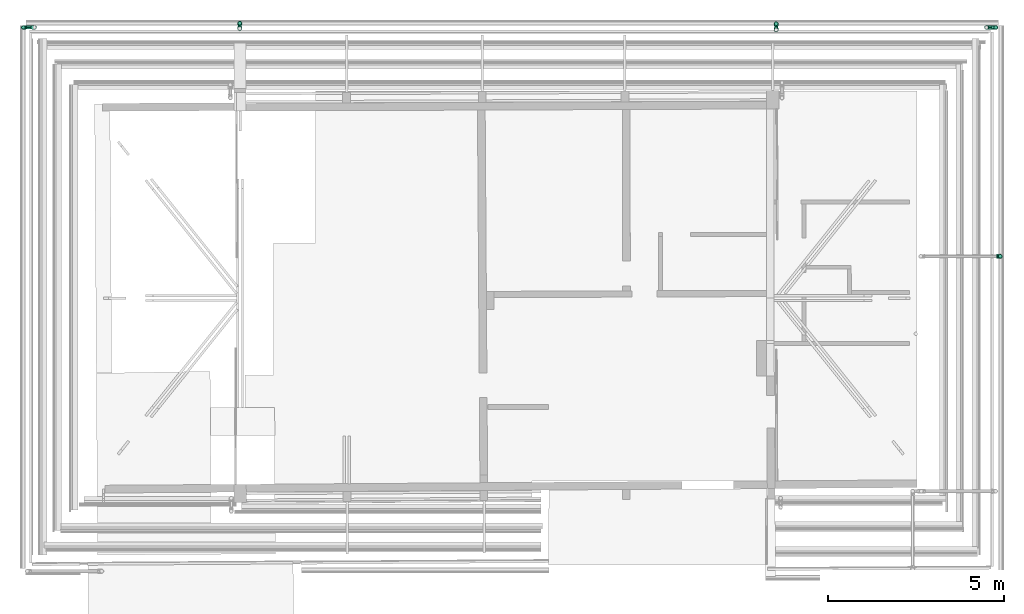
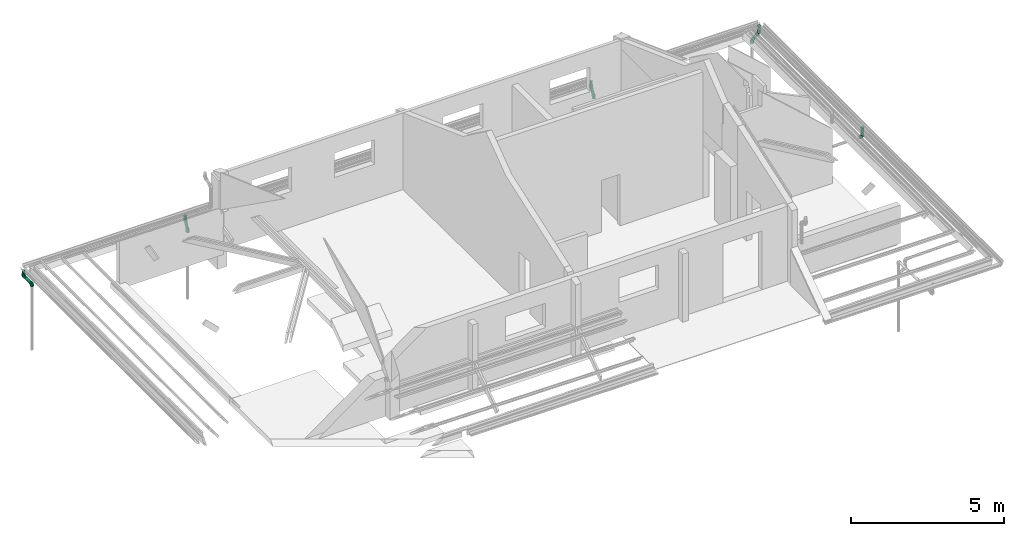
# One storey, part 13 of 15: 9 flow fittings, 9 flow segments.
"""IFC2X3 building model written with IfcOpenShell, lengths in centimetres."""

from ifc_helpers import new_model, entity, si_unit, converted_unit, direction, frame, frame_2d, origin, origin_2d_with_axis, place, context, subcontext, project, spatial, circle, extrude, faceted_brep, source, transform, mapped, material, type_object, type_shapes, element, save


model = new_model("IFC2X3")

# Units and contexts
model_context = context("Model", 3, precision=0.001, world=frame((0.0, 0.0, 13090.0)), true_north=direction((6.123233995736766e-17, 1.0)))
body_context = subcontext(model_context, "Body", "Model", "MODEL_VIEW")
ifc_project = project(units=[si_unit("LENGTHUNIT", "METRE", prefix="CENTI"), si_unit("AREAUNIT", "SQUARE_METRE"), si_unit("VOLUMEUNIT", "CUBIC_METRE"), converted_unit("PLANEANGLEUNIT", "DEGREE", entity("IfcPlaneAngleMeasure", 0.017453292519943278), si_unit("PLANEANGLEUNIT", "RADIAN"), dimensions=[0, 0, 0, 0, 0, 0, 0])], contexts=[model_context])

# Site, building, storey
site_placement = place(None, origin())
site = spatial("IfcSite", under=ifc_project, at=site_placement, Name="Default", CompositionType="ELEMENT")
building_placement = place(site_placement, origin())
building = spatial("IfcBuilding", under=site, at=building_placement, Name="e 39 logements et 22 maisons relais", CompositionType="ELEMENT")
storey_placement = place(building_placement, frame((0.0, 0.0, 340.0)))
storey = spatial("IfcBuildingStorey", under=building, at=storey_placement, Name="R+1", CompositionType="ELEMENT", Elevation=339.99999999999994)

# Flow segments
pipe_segment_type = type_object("IfcPipeSegmentType", Name="Canalisation:Par défaut", PredefinedType="NOTDEFINED")
flow_segment_1_placement = place(storey_placement, origin())
element("IfcFlowSegment", 1, at=flow_segment_1_placement, inside=storey, type_object=pipe_segment_type, Name="Canalisation:Par défaut", ObjectType="Canalisation:Par défaut", context=body_context, shape_type="SweptSolid", body=[
    extrude(circle(Radius=5.0, at=origin_2d_with_axis()), frame((1220.3704185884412, 746.9620554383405, -48.138124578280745), z_axis=(0.7771459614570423, 0.0, 0.6293203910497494), x_axis=(0.0, -1.0, 0.0)), (0.0, 0.0, 1.0), 11.775000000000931),
])
flow_segment_2_placement = place(storey_placement, origin())
element("IfcFlowSegment", 2, at=flow_segment_2_placement, inside=storey, type_object=pipe_segment_type, Name="Canalisation:Par défaut", ObjectType="Canalisation:Par défaut", context=body_context, shape_type="SweptSolid", body=[
    extrude(circle(Radius=5.0, at=frame_2d((0.0, 1.0828671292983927e-13), x_axis=(1.0, 0.0))), frame((1238.1573467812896, 746.9620554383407, -22.62205412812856), z_axis=(0.0, 0.0, 1.0), x_axis=(-1.0, 0.0, 0.0)), (0.0, 0.0, 1.0), 17.0875000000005),
])
flow_segment_3_placement = place(storey_placement, origin())
element("IfcFlowSegment", 3, at=flow_segment_3_placement, inside=storey, type_object=pipe_segment_type, Name="Canalisation:Par défaut", ObjectType="Canalisation:Par défaut", context=body_context, shape_type="SweptSolid", body=[
    extrude(circle(Radius=5.0, at=origin_2d_with_axis()), frame((1251.1307459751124, 95.57811266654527, -44.81986798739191), z_axis=(0.0, 0.0, 1.0), x_axis=(-1.0, 0.0, 0.0)), (0.0, 0.0, 1.0), 26.499999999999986),
])
flow_segment_4_placement = place(storey_placement, origin())
element("IfcFlowSegment", 4, at=flow_segment_4_placement, inside=storey, type_object=pipe_segment_type, Name="Canalisation:Par défaut", ObjectType="Canalisation:Par défaut", context=body_context, shape_type="SweptSolid", body=[
    extrude(circle(Radius=5.0, at=origin_2d_with_axis()), frame((-913.2344357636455, 747.4182349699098, -56.66478418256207), z_axis=(0.0, 0.43837114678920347, 0.8987940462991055), x_axis=(1.0, 0.0, 0.0)), (0.0, 0.0, 1.0), 18.767520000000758),
])
flow_segment_5_placement = place(storey_placement, origin())
element("IfcFlowSegment", 5, at=flow_segment_5_placement, inside=storey, type_object=pipe_segment_type, Name="Canalisation:Par défaut", ObjectType="Canalisation:Par défaut", context=body_context, shape_type="SweptSolid", body=[
    extrude(circle(Radius=5.0, at=frame_2d((0.0, 1.0828671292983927e-13), x_axis=(1.0, 0.0))), frame((-913.2344357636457, 759.1594625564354, -24.575460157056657), z_axis=(0.0, 0.0, 1.0), x_axis=(-1.0, 0.0, 0.0)), (0.0, 0.0, 1.0), 10.283759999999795),
])
flow_segment_6_placement = place(storey_placement, origin())
element("IfcFlowSegment", 6, at=flow_segment_6_placement, inside=storey, type_object=pipe_segment_type, Name="Canalisation:Par défaut", ObjectType="Canalisation:Par défaut", context=body_context, shape_type="SweptSolid", body=[
    extrude(circle(Radius=5.0, at=origin_2d_with_axis()), frame((613.0959436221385, 744.5290247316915, -57.16839418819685), z_axis=(0.0, 0.5591929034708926, 0.8290375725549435), x_axis=(1.0, 0.0, 0.0)), (0.0, 0.0, 1.0), 15.667520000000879),
])
flow_segment_7_placement = place(storey_placement, origin())
element("IfcFlowSegment", 7, at=flow_segment_7_placement, inside=storey, type_object=pipe_segment_type, Name="Canalisation:Par défaut", ObjectType="Canalisation:Par défaut", context=body_context, shape_type="SweptSolid", body=[
    extrude(circle(Radius=5.0, at=origin_2d_with_axis()), frame((613.0959436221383, 757.772815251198, -29.5174272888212), z_axis=(0.0, 0.0, 1.0), x_axis=(-1.0, 0.0, 0.0)), (0.0, 0.0, 1.0), 15.683759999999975),
])
flow_segment_8_placement = place(storey_placement, origin())
element("IfcFlowSegment", 8, at=flow_segment_8_placement, inside=storey, type_object=pipe_segment_type, Name="Canalisation:Par défaut", ObjectType="Canalisation:Par défaut", context=body_context, shape_type="SweptSolid", body=[
    extrude(circle(Radius=5.0, at=origin_2d_with_axis()), frame((-1502.0786888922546, 746.9968022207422, -69.48445857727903), z_axis=(-0.587785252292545, 0.0, 0.8090169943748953), x_axis=(0.0, 1.0, 0.0)), (0.0, 0.0, 1.0), 37.682068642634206),
])
flow_segment_9_placement = place(storey_placement, origin())
element("IfcFlowSegment", 9, at=flow_segment_9_placement, inside=storey, type_object=pipe_segment_type, Name="Canalisation:Par défaut", ObjectType="Canalisation:Par défaut", context=body_context, shape_type="SweptSolid", body=[
    extrude(circle(Radius=5.0, at=origin_2d_with_axis()), frame((-1528.9394807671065, 746.9968022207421, -24.49751027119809), z_axis=(0.0, 0.0, 1.0), x_axis=(-1.0, 0.0, 0.0)), (0.0, 0.0, 1.0), 12.283760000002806),
])

# Flow fittings
ifc_material = material(Name="<Unnamed>")
pipe_fitting_type_1 = type_object("IfcPipeFittingType", Name="Coude - PVC - Nom. 40:Standard", PredefinedType="NOTDEFINED", material=ifc_material)
shared_shape_1 = source(origin(), body_context, "Body", "Brep", [
    faceted_brep([(-11.112499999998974, -1.6435009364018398, -6.133628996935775), (-11.11249999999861, -5.499261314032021, -3.1750000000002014), (-11.112499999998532, -6.350000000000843, 0.0), (-11.11249999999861, -5.499261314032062, 3.1749999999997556), (-11.112499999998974, -1.6435009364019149, 6.13362899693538), (-11.112499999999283, 1.6435009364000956, 6.133628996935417), (-11.112499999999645, 5.4992613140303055, 3.17499999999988), (-11.112499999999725, 6.3499999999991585, 0.0), (-11.112499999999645, 5.499261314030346, -3.175000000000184), (-11.112499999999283, 1.643500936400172, -6.13362899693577), (-5.872479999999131, -6.3500000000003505, 0.0), (-5.87247999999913, -5.499261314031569, 3.1749999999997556), (-5.87247999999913, -1.6435009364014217, 6.13362899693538), (-5.872479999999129, 1.6435009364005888, 6.133628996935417), (8.270562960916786, 7.601745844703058, 6.13362899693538), (5.7160827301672, 9.670323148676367, 6.133628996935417), (2.418431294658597, 5.598062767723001, 6.133628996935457), (4.972911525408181, 3.529485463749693, 6.1336289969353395), (-5.872479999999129, 5.499261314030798, 3.17499999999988), (-5.872479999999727, 6.3499999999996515, 0.0), (-5.872479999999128, 5.499261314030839, -3.1750000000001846), (-5.87247999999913, 1.6435009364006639, -6.13362899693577), (-5.87247999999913, -1.643500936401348, -6.133628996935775), (5.716082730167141, 9.670323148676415, -6.13362899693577), (8.270562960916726, 7.601745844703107, -6.133628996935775), (4.972911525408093, 3.5294854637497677, -6.1336289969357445), (2.4184312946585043, 5.5980627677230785, -6.133628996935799), (-5.87247999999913, -5.499261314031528, -3.1750000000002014), (-0.1409989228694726, 0.2956099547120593, 6.270559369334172), (-0.21033826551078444, -3.8691241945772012, 4.120940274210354), (2.1616794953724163, -4.532055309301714, 0.0), (-3.3058114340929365, 6.930777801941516, 0.0), (-0.5780573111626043, 8.024571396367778, 3.174999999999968), (8.63054826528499, 0.5675896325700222, 0.0), (7.9694001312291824, 1.1029768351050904, 3.174999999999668), (-1.2392054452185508, 8.559958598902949, 0.0), (3.139244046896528, -2.271455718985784, -4.120939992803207), (-0.14099882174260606, 0.29560931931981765, -6.270559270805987), (7.969400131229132, 1.1029768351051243, -3.1750000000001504), (-0.5780573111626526, 8.024571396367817, -3.175000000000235), (2.719594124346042, 12.096831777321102, -3.1750000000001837), (2.058445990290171, 12.63221897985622, 0.0), (2.719594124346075, 12.096831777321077, 3.17499999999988), (11.267051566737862, 5.175237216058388, 3.1749999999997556), (11.928199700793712, 4.63985001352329, 0.0), (11.267051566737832, 5.175237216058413, -3.1750000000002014)], [[[0, 1, 2, 3, 4, 5, 6, 7, 8, 9]], [[2, 10, 11, 3]], [[3, 11, 12, 4]], [[12, 13, 5, 4]], [[14, 15, 16, 17]], [[5, 13, 18, 6]], [[6, 18, 19, 7]], [[7, 19, 20, 8]], [[8, 20, 21, 9]], [[21, 22, 0, 9]], [[23, 24, 25, 26]], [[0, 22, 27, 1]], [[1, 27, 10, 2]], [[17, 16, 28]], [[29, 11, 30]], [[13, 12, 28]], [[12, 11, 29]], [[12, 29, 28]], [[31, 18, 32]], [[31, 19, 18]], [[18, 13, 28]], [[11, 10, 30]], [[30, 33, 34]], [[34, 29, 30]], [[17, 28, 29]], [[31, 32, 35]], [[28, 32, 18]], [[28, 16, 32]], [[34, 17, 29]], [[25, 36, 37]], [[25, 38, 36]], [[20, 39, 37]], [[21, 20, 37]], [[10, 27, 30]], [[36, 22, 37]], [[36, 27, 22]], [[20, 19, 31]], [[31, 35, 39]], [[27, 36, 30]], [[26, 37, 39]], [[30, 36, 38]], [[26, 25, 37]], [[30, 38, 33]], [[37, 22, 21]], [[39, 20, 31]], [[24, 23, 40, 41, 42, 15, 14, 43, 44, 45]], [[33, 44, 43, 34]], [[34, 43, 14, 17]], [[16, 15, 42, 32]], [[32, 42, 41, 35]], [[35, 41, 40, 39]], [[39, 40, 23, 26]], [[25, 24, 45, 38]], [[38, 45, 44, 33]]]),
])
type_shapes(pipe_fitting_type_1, [shared_shape_1])
for number, where, z_axis, x_axis, name in (
    (10, (1211.7343840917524, 746.9620554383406, -55.131447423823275), (0.0, 1.0, 0.0), (0.0, 0.0, 1.0), "Coude - PVC - Nom. 40:Standard"),
    (11, (1238.1573467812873, 746.9620554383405, -33.73455412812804), (0.0, -1.0, 0.0), (0.7771459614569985, 0.0, 0.6293203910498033), "Coude - PVC - Nom. 40:Standard"),
):
    element("IfcFlowFitting", number, at=place(storey_placement, frame(where, z_axis=z_axis, x_axis=x_axis)), inside=storey, type_object=pipe_fitting_type_1, material=ifc_material, Name=name, ObjectType="Coude - PVC - Nom. 40:Standard", context=body_context, shape_type="MappedRepresentation", body=[
        mapped(shared_shape_1, transform((0.0, 0.0, 0.0), scale=1.0)),
    ])
pipe_fitting_type_2 = type_object("IfcPipeFittingType", Name="Coude - PVC - Nom. 40:Standard", PredefinedType="NOTDEFINED", material=ifc_material)
shared_shape_2 = source(origin(), body_context, "Body", "Brep", [
    faceted_brep([(-11.542093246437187, -1.6435009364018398, -6.133628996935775), (-11.542093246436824, -5.499261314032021, -3.1750000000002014), (-11.542093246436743, -6.350000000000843, 0.0), (-11.542093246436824, -5.499261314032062, 3.1749999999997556), (-11.542093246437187, -1.6435009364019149, 6.13362899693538), (-11.542093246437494, 1.6435009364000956, 6.133628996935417), (-11.542093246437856, 5.4992613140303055, 3.17499999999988), (-11.542093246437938, 6.3499999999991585, 0.0), (-11.542093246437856, 5.499261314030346, -3.175000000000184), (-11.542093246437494, 1.643500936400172, -6.13362899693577), (-6.302073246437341, -6.350000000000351, 0.0), (-6.302073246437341, -5.49926131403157, 3.1749999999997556), (-6.302073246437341, -1.6435009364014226, 6.13362899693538), (-6.30207324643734, 1.643500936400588, 6.133628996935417), (1.8739680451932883, 11.506922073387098, 6.13362899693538), (-1.4123766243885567, 11.572648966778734, 6.133628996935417), (-1.517156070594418, 6.333676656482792, 6.133628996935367), (1.7691885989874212, 6.267949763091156, 6.13362899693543), (-6.302073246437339, 5.4992613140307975, 3.17499999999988), (-6.302073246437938, 6.349999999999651, 0.0), (-6.302073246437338, 5.499261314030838, -3.175000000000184), (-6.30207324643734, 1.6435009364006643, -6.13362899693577), (-6.302073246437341, -1.6435009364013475, -6.133628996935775), (-1.412376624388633, 11.572648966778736, -6.13362899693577), (1.8739680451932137, 11.5069220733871, -6.133628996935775), (1.7691885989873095, 6.267949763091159, -6.133628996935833), (-1.517156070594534, 6.333676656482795, -6.133628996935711), (-6.302073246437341, -5.4992613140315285, -3.1750000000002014), (-0.1608566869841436, 0.16410532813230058, 5.901628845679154), (-2.1057190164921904, -4.11757864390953, 4.012363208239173), (-0.8295113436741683, -3.602819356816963, 0.0), (4.10352219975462, 1.7165620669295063, 3.9224092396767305), (5.624178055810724, 6.190849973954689, 3.1749999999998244), (3.945789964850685, -1.2056577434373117, 0.0), (-6.246510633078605, 6.372690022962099, 0.0), (-5.3721455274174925, 6.410776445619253, 3.1749999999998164), (-3.6626994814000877, 3.736685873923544, 5.766543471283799), (6.474746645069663, 6.173838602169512, 0.0), (-6.2227141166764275, 6.427787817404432, 0.0), (-2.1057189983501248, -4.117578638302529, -4.01236320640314), (4.103522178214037, 1.7165620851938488, -3.9224092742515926), (-0.16085660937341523, 0.16410534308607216, -5.9016288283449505), (-5.372145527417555, 6.410776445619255, -3.175000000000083), (-3.662699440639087, 3.7366858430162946, -5.766543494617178), (5.624178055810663, 6.190849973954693, -3.175000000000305), (-5.267366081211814, 11.6497487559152, -3.175000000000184), (-6.117934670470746, 11.666760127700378, 0.0), (-5.267366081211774, 11.649748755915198, 3.17499999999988), (5.728957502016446, 11.429822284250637, 3.1749999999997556), (6.579526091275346, 11.412810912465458, 0.0), (5.728957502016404, 11.429822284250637, -3.1750000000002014)], [[[0, 1, 2, 3, 4, 5, 6, 7, 8, 9]], [[2, 10, 11, 3]], [[3, 11, 12, 4]], [[12, 13, 5, 4]], [[14, 15, 16, 17]], [[5, 13, 18, 6]], [[6, 18, 19, 7]], [[7, 19, 20, 8]], [[8, 20, 21, 9]], [[21, 22, 0, 9]], [[23, 24, 25, 26]], [[0, 22, 27, 1]], [[1, 27, 10, 2]], [[12, 28, 13]], [[29, 11, 30]], [[29, 31, 28]], [[28, 12, 29]], [[32, 31, 33]], [[34, 18, 35]], [[18, 36, 35]], [[34, 19, 18]], [[18, 13, 36]], [[11, 10, 30]], [[29, 33, 31]], [[33, 37, 32]], [[33, 29, 30]], [[32, 17, 31]], [[28, 36, 13]], [[34, 35, 38]], [[29, 12, 11]], [[36, 16, 35]], [[36, 28, 16]], [[17, 28, 31]], [[16, 28, 17]], [[20, 19, 34]], [[39, 40, 33]], [[39, 41, 40]], [[20, 42, 43]], [[39, 30, 27]], [[41, 21, 43]], [[44, 40, 25]], [[41, 43, 26]], [[27, 30, 10]], [[20, 34, 42]], [[42, 26, 43]], [[41, 25, 40]], [[39, 27, 22]], [[25, 41, 26]], [[40, 44, 33]], [[22, 21, 41]], [[44, 37, 33]], [[22, 41, 39]], [[39, 33, 30]], [[20, 43, 21]], [[42, 34, 38]], [[23, 45, 46, 47, 15, 14, 48, 49, 50, 24]], [[37, 49, 48, 32]], [[32, 48, 14, 17]], [[16, 15, 47, 35]], [[35, 47, 46, 38]], [[38, 46, 45, 42]], [[42, 45, 23, 26]], [[25, 24, 50, 44]], [[44, 50, 49, 37]]]),
])
type_shapes(pipe_fitting_type_2, [shared_shape_2])
flow_fitting_placement = place(storey_placement, frame((1251.1307459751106, 95.57811266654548, -56.361961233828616), z_axis=(0.0, 1.0, 0.0), x_axis=(0.0, 0.0, -1.0)))
element("IfcFlowFitting", 12, at=flow_fitting_placement, inside=storey, type_object=pipe_fitting_type_2, material=ifc_material, Name="Coude - PVC - Nom. 40:Standard", ObjectType="Coude - PVC - Nom. 40:Standard", context=body_context, shape_type="MappedRepresentation", body=[
    mapped(shared_shape_2, transform((0.0, 0.0, 0.0), scale=1.0)),
])
pipe_fitting_type_3 = type_object("IfcPipeFittingType", Name="Coude - PVC - Nom. 40:Standard", PredefinedType="NOTDEFINED", material=ifc_material)
shared_shape_3 = source(origin(), body_context, "Body", "Brep", [
    faceted_brep([(-8.016239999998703, -1.6435009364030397, -6.133628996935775), (-8.016239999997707, -5.499261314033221, -3.1750000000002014), (-8.016239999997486, -6.350000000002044, 0.0), (-8.016239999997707, -5.499261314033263, 3.1749999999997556), (-8.016239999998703, -1.6435009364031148, 6.13362899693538), (-8.016239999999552, 1.643500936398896, 6.133628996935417), (-8.016240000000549, 5.499261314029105, 3.17499999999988), (-8.016240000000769, 6.349999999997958, 0.0), (-8.016240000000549, 5.4992613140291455, -3.175000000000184), (-8.016239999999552, 1.643500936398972, -6.13362899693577), (-2.7762199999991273, -6.35000000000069, 0.0), (-2.7762199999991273, -5.499261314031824, 3.1749999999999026), (-2.7762199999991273, -1.6435009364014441, 6.133628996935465), (-2.7762199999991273, 1.6435009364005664, 6.1336289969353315), (7.925412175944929, 2.0369194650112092, 6.13362899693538), (6.48448539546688, 4.991257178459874, 6.133628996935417), (1.7747866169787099, 2.6941836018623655, 6.13362899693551), (3.215713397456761, -0.2601541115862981, 6.133628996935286), (-2.7762199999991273, 5.4992613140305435, 3.1749999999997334), (-2.7762200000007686, 6.349999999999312, 0.0), (-2.7762199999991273, 5.499261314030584, -3.175000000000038), (-2.7762199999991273, 1.6435009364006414, -6.133628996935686), (-2.7762199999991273, -1.6435009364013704, -6.133628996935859), (6.484485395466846, 4.991257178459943, -6.13362899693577), (7.925412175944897, 2.0369194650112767, -6.133628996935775), (3.2157133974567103, -0.2601541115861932, -6.13362899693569), (1.774786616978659, 2.6941836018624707, -6.133628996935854), (-2.7762199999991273, -5.499261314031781, -3.175000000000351), (0.15941218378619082, -0.6904915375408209, 6.266733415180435), (1.357284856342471, -5.879046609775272, 0.0), (0.08605128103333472, -4.59428219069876, 4.111810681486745), (0.08453251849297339, 6.159718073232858, 3.17500000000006), (-0.7845416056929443, 3.3982225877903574, 5.501396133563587), (-1.499593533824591, 6.495453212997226, 0.0), (4.905967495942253, -3.7256885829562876, 3.1749999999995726), (5.278906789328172, -4.49032744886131, 0.0), (-0.28840677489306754, 6.924356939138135, 0.0), (0.15941218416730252, -0.6904915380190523, -6.266733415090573), (-0.7845416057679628, 3.398222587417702, -5.501396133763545), (4.905967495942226, -3.7256885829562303, -3.1750000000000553), (1.9366582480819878, -4.167035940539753, -4.111810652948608), (0.08453251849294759, 6.159718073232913, -3.1750000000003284), (4.794231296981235, 8.456791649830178, -3.1750000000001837), (4.421292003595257, 9.221430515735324, 0.0), (4.794231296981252, 8.456791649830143, 3.17499999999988), (9.61566627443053, -1.428615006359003, 3.1749999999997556), (9.988605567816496, -2.193253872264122, 0.0), (9.615666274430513, -1.4286150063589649, -3.1750000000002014)], [[[0, 1, 2, 3, 4, 5, 6, 7, 8, 9]], [[2, 10, 11, 3]], [[3, 11, 12, 4]], [[12, 13, 5, 4]], [[14, 15, 16, 17]], [[5, 13, 18, 6]], [[6, 18, 19, 7]], [[7, 19, 20, 8]], [[8, 20, 21, 9]], [[21, 22, 0, 9]], [[23, 24, 25, 26]], [[0, 22, 27, 1]], [[1, 27, 10, 2]], [[12, 28, 13]], [[29, 30, 11]], [[16, 31, 32]], [[12, 11, 30]], [[33, 18, 31]], [[33, 19, 18]], [[18, 13, 32]], [[34, 30, 29]], [[11, 10, 29]], [[29, 35, 34]], [[17, 28, 30]], [[12, 30, 28]], [[33, 31, 36]], [[17, 16, 28]], [[28, 16, 32]], [[32, 13, 28]], [[18, 32, 31]], [[34, 17, 30]], [[37, 21, 38]], [[25, 39, 40]], [[25, 40, 37]], [[41, 38, 20]], [[10, 27, 29]], [[40, 22, 37]], [[40, 27, 22]], [[41, 26, 38]], [[20, 19, 33]], [[33, 36, 41]], [[27, 40, 29]], [[26, 37, 38]], [[22, 21, 37]], [[26, 25, 37]], [[29, 39, 35]], [[20, 38, 21]], [[40, 39, 29]], [[41, 20, 33]], [[23, 42, 43, 44, 15, 14, 45, 46, 47, 24]], [[35, 46, 45, 34]], [[34, 45, 14, 17]], [[16, 15, 44, 31]], [[31, 44, 43, 36]], [[36, 43, 42, 41]], [[41, 42, 23, 26]], [[25, 24, 47, 39]], [[39, 47, 46, 35]]]),
])
type_shapes(pipe_fitting_type_3, [shared_shape_3])
for number, where, z_axis, x_axis, name in (
    (13, (-913.2344357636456, 743.904146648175, -63.86973296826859), (-1.0, 0.0, 0.0), (0.0, 0.0, 1.0), "Coude - PVC - Nom. 40:Standard"),
    (14, (-913.2344357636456, 759.1594625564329, -32.59170015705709), (1.0, 0.0, 0.0), (0.0, 0.4383711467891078, 0.8987940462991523), "Coude - PVC - Nom. 40:Standard"),
):
    element("IfcFlowFitting", number, at=place(storey_placement, frame(where, z_axis=z_axis, x_axis=x_axis)), inside=storey, type_object=pipe_fitting_type_3, material=ifc_material, Name=name, ObjectType="Coude - PVC - Nom. 40:Standard", context=body_context, shape_type="MappedRepresentation", body=[
        mapped(shared_shape_3, transform((0.0, 0.0, 0.0), scale=1.0)),
    ])
pipe_fitting_type_4 = type_object("IfcPipeFittingType", Name="Coude - PVC - Nom. 40:Standard", PredefinedType="NOTDEFINED", material=ifc_material)
shared_shape_4 = source(origin(), body_context, "Body", "Brep", [
    faceted_brep([(-8.016239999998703, -1.6435009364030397, -6.133628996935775), (-8.016239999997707, -5.499261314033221, -3.1750000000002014), (-8.016239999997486, -6.350000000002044, 0.0), (-8.016239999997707, -5.499261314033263, 3.1749999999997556), (-8.016239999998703, -1.6435009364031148, 6.13362899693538), (-8.016239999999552, 1.643500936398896, 6.133628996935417), (-8.016240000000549, 5.499261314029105, 3.17499999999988), (-8.016240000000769, 6.349999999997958, 0.0), (-8.016240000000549, 5.4992613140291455, -3.175000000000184), (-8.016239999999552, 1.643500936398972, -6.13362899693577), (-2.7762199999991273, -6.35000000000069, 0.0), (-2.7762199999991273, -5.4992613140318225, 3.174999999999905), (-2.7762199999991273, -1.6435009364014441, 6.133628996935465), (-2.7762199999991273, 1.6435009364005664, 6.1336289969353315), (7.564798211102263, 3.1201004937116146, 6.13362899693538), (5.726730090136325, 5.8451485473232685, 6.133628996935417), (1.3825566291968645, 2.914966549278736, 6.133628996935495), (3.220624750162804, 0.1899184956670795, 6.133628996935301), (-2.7762199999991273, 5.4992613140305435, 3.1749999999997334), (-2.7762200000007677, 6.349999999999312, 0.0), (-2.7762199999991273, 5.499261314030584, -3.175000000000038), (-2.7762199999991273, 1.6435009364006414, -6.133628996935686), (-2.7762199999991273, -1.643500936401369, -6.133628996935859), (5.726730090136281, 5.845148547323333, -6.13362899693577), (7.564798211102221, 3.1201004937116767, -6.133628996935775), (3.220624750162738, 0.18991849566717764, -6.133628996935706), (1.3825566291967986, 2.9149665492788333, -6.133628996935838), (-2.7762199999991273, -5.499261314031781, -3.175000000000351), (0.2742241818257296, -0.8969480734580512, 6.204218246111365), (1.0031177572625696, -5.592527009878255, 0.0), (1.789158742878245, -4.289722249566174, 3.8527216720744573), (-1.9778679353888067, 6.469314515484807, 0.0), (-0.7735572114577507, 6.111536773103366, 3.1750000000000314), (3.170261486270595, -5.158177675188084, 0.0), (5.852465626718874, -3.7119460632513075, 0.0), (5.3767385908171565, -3.0066517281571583, 3.1749999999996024), (-1.2492842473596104, 6.816831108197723, 0.0), (-0.7735572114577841, 6.111536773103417, -3.175000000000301), (0.27422418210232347, -0.8969480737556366, -6.2042182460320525), (1.7891587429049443, -4.289722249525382, -3.852721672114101), (5.376738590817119, -3.006651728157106, -3.1750000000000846), (3.5706162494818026, 9.041718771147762, -3.175000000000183), (3.094889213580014, 9.747013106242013, 0.0), (3.570616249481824, 9.04171877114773, 3.17499999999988), (9.720912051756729, -0.0764697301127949, 3.1749999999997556), (10.196639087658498, -0.7817640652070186, 0.0), (9.720912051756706, -0.07646973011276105, -3.1750000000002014)], [[[0, 1, 2, 3, 4, 5, 6, 7, 8, 9]], [[2, 10, 11, 3]], [[3, 11, 12, 4]], [[12, 13, 5, 4]], [[14, 15, 16, 17]], [[5, 13, 18, 6]], [[6, 18, 19, 7]], [[7, 19, 20, 8]], [[8, 20, 21, 9]], [[21, 22, 0, 9]], [[23, 24, 25, 26]], [[0, 22, 27, 1]], [[1, 27, 10, 2]], [[12, 28, 13]], [[29, 30, 11]], [[11, 10, 29]], [[30, 28, 12]], [[31, 18, 32]], [[31, 19, 18]], [[32, 18, 13, 16]], [[12, 11, 30]], [[33, 30, 29]], [[33, 34, 35]], [[17, 28, 30]], [[31, 32, 36]], [[17, 16, 28]], [[13, 28, 16]], [[35, 30, 33]], [[35, 17, 30]], [[20, 19, 31]], [[21, 20, 37, 26]], [[22, 38, 39]], [[38, 21, 26]], [[29, 10, 27]], [[25, 40, 39]], [[27, 22, 39]], [[20, 31, 37]], [[39, 38, 25]], [[26, 25, 38]], [[38, 22, 21]], [[40, 33, 39]], [[27, 39, 29]], [[40, 34, 33]], [[29, 39, 33]], [[37, 31, 36]], [[23, 41, 42, 43, 15, 14, 44, 45, 46, 24]], [[34, 45, 44, 35]], [[35, 44, 14, 17]], [[16, 15, 43, 32]], [[32, 43, 42, 36]], [[36, 42, 41, 37]], [[37, 41, 23, 26]], [[25, 24, 46, 40]], [[40, 46, 45, 34]]]),
])
type_shapes(pipe_fitting_type_4, [shared_shape_4])
for number, where, z_axis, x_axis, name in (
    (15, (613.0959436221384, 740.0464002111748, -63.814158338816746), (-1.0, 0.0, 0.0), (0.0, 0.0, 1.0), "Coude - PVC - Nom. 40:Standard"),
    (16, (613.0959436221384, 757.7728152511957, -37.533667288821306), (1.0, 0.0, 0.0), (0.0, 0.559192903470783, 0.8290375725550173), "Coude - PVC - Nom. 40:Standard"),
):
    element("IfcFlowFitting", number, at=place(storey_placement, frame(where, z_axis=z_axis, x_axis=x_axis)), inside=storey, type_object=pipe_fitting_type_4, material=ifc_material, Name=name, ObjectType="Coude - PVC - Nom. 40:Standard", context=body_context, shape_type="MappedRepresentation", body=[
        mapped(shared_shape_4, transform((0.0, 0.0, 0.0), scale=1.0)),
    ])
pipe_fitting_type_5 = type_object("IfcPipeFittingType", Name="Coude - PVC - Nom. 40:Standard", PredefinedType="NOTDEFINED", material=ifc_material)
shared_shape_5 = source(origin(), body_context, "Body", "Brep", [
    faceted_brep([(-8.016239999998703, -1.6435009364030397, -6.133628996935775), (-8.016239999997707, -5.499261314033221, -3.1750000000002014), (-8.016239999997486, -6.350000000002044, 0.0), (-8.016239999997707, -5.499261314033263, 3.1749999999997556), (-8.016239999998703, -1.6435009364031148, 6.13362899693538), (-8.016239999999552, 1.643500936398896, 6.133628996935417), (-8.016240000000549, 5.499261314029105, 3.17499999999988), (-8.016240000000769, 6.349999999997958, 0.0), (-8.016240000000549, 5.4992613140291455, -3.175000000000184), (-8.016239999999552, 1.643500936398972, -6.13362899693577), (-2.7762199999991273, -6.35000000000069, 0.0), (-2.7762199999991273, -5.4992613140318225, 3.174999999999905), (-2.7762199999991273, -1.6435009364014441, 6.133628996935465), (-2.7762199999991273, 1.6435009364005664, 6.1336289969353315), (7.451300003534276, 3.3822074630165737, 6.13362899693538), (5.519248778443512, 6.041447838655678, 6.133628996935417), (1.2799835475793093, 2.9614413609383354, 6.1336289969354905), (3.2120347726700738, 0.3022009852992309, 6.133628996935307), (-2.7762199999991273, 5.4992613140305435, 3.1749999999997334), (-2.7762200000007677, 6.349999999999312, 0.0), (-2.776219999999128, 5.499261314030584, -3.175000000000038), (-2.7762199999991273, 1.6435009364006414, -6.133628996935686), (-2.7762199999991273, -1.643500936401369, -6.133628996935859), (5.519248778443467, 6.04144783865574, -6.13362899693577), (7.451300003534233, 3.3822074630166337, -6.133628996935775), (3.212034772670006, 0.302200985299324, -6.133628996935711), (1.2799835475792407, 2.9614413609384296, -6.133628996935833), (-2.7762199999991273, -5.499261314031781, -3.175000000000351), (0.3079679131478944, -0.9478289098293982, 6.185426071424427), (0.9770941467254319, -5.552208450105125, 0.0), (1.8294625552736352, -4.2933604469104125, 3.7905438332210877), (-2.098135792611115, 6.457397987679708, 0.0), (-0.986375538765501, 6.080817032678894, 3.1750000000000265), (5.478393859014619, -2.817174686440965, 3.1749999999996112), (3.2818483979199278, -5.0623178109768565, 0.0), (5.978445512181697, -3.5054367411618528, 0.0), (-1.4864271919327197, 6.769079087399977, 0.0), (-0.986375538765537, 6.080817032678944, -3.1750000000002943), (1.8294625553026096, -4.293360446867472, -3.7905438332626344), (0.30796791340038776, -0.9478289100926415, -6.185426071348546), (5.4783938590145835, -2.817174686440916, -3.175000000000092), (3.2528896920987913, 9.160823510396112, -3.175000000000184), (2.7528380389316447, 9.849085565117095, 0.0), (3.252889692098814, 9.160823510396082, 3.17499999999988), (9.717659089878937, 0.262831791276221, 3.1749999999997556), (10.217710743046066, -0.4254302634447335, 0.0), (9.717659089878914, 0.26283179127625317, -3.175000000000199)], [[[0, 1, 2, 3, 4, 5, 6, 7, 8, 9]], [[2, 10, 11, 3]], [[3, 11, 12, 4]], [[12, 13, 5, 4]], [[14, 15, 16, 17]], [[5, 13, 18, 6]], [[6, 18, 19, 7]], [[7, 19, 20, 8]], [[8, 20, 21, 9]], [[21, 22, 0, 9]], [[23, 24, 25, 26]], [[0, 22, 27, 1]], [[1, 27, 10, 2]], [[12, 28, 13]], [[29, 30, 11]], [[17, 16, 28]], [[30, 28, 12]], [[31, 18, 32]], [[31, 19, 18]], [[32, 18, 13, 16]], [[11, 10, 29]], [[17, 30, 33]], [[34, 35, 33]], [[17, 28, 30]], [[31, 32, 36]], [[29, 34, 30]], [[13, 28, 16]], [[33, 30, 34]], [[12, 11, 30]], [[20, 19, 31]], [[21, 20, 37, 26]], [[29, 38, 34]], [[39, 21, 26]], [[27, 38, 29]], [[29, 10, 27]], [[38, 22, 39]], [[20, 31, 37]], [[38, 39, 25]], [[22, 38, 27]], [[39, 22, 21]], [[40, 34, 38]], [[26, 25, 39]], [[40, 35, 34]], [[40, 38, 25]], [[37, 31, 36]], [[23, 41, 42, 43, 15, 14, 44, 45, 46, 24]], [[35, 45, 44, 33]], [[33, 44, 14, 17]], [[16, 15, 43, 32]], [[32, 43, 42, 36]], [[36, 42, 41, 37]], [[37, 41, 23, 26]], [[25, 24, 46, 40]], [[40, 46, 45, 35]]]),
])
type_shapes(pipe_fitting_type_5, [shared_shape_5])
for number, where, z_axis, x_axis, name in (
    (17, (-1497.3668612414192, 746.9968022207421, -75.9697329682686), (0.0, -1.0, 0.0), (0.0, 0.0, 1.0), "Coude - PVC - Nom. 40:Standard"),
    (18, (-1528.9394807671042, 746.9968022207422, -32.51375027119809), (0.0, 1.0, 0.0), (-0.5877852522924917, 0.0, 0.8090169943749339), "Coude - PVC - Nom. 40:Standard"),
):
    element("IfcFlowFitting", number, at=place(storey_placement, frame(where, z_axis=z_axis, x_axis=x_axis)), inside=storey, type_object=pipe_fitting_type_5, material=ifc_material, Name=name, ObjectType="Coude - PVC - Nom. 40:Standard", context=body_context, shape_type="MappedRepresentation", body=[
        mapped(shared_shape_5, transform((0.0, 0.0, 0.0), scale=1.0)),
    ])

save(model, "model.ifc")
